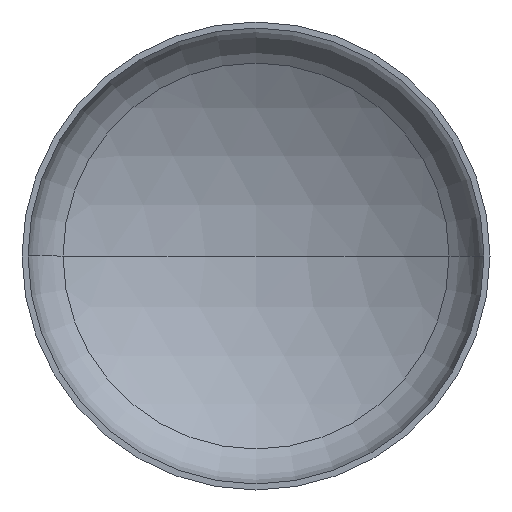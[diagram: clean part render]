
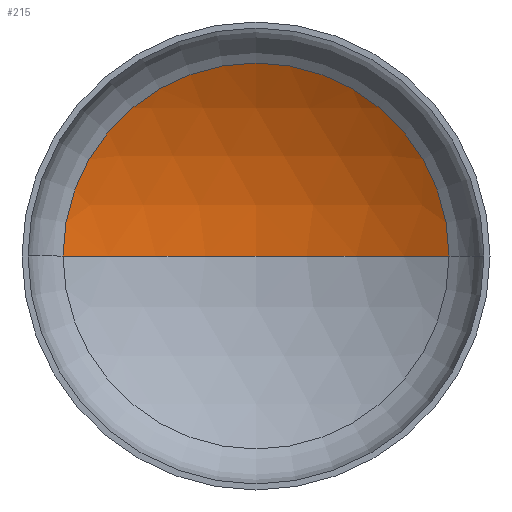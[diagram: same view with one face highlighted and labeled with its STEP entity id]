
A CAD part, front view. The second image highlights one B-rep face of the part: STEP entity #215.
In plain terms, the highlighted spherical face has radius 5600 mm.
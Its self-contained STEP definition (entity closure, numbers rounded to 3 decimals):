
#4 = ORIENTED_EDGE ( 'NONE', *, *, #144, .T. ) ;
#16 = VERTEX_POINT ( 'NONE', #342 ) ;
#30 = AXIS2_PLACEMENT_3D ( 'NONE', #234, #230, #33 ) ;
#33 = DIRECTION ( 'NONE',  ( -1., 0., 0. ) ) ;
#42 = VERTEX_POINT ( 'NONE', #275 ) ;
#48 = ORIENTED_EDGE ( 'NONE', *, *, #146, .F. ) ;
#83 = AXIS2_PLACEMENT_3D ( 'NONE', #186, #187, #194 ) ;
#87 = AXIS2_PLACEMENT_3D ( 'NONE', #208, #209, #204 ) ;
#90 = VERTEX_POINT ( 'NONE', #237 ) ;
#93 = AXIS2_PLACEMENT_3D ( 'NONE', #195, #298, #296 ) ;
#108 = EDGE_LOOP ( 'NONE', ( #48, #4, #344 ) ) ;
#142 = EDGE_CURVE ( 'NONE', #42, #90, #203, .T. ) ;
#144 = EDGE_CURVE ( 'NONE', #16, #42, #270, .T. ) ;
#146 = EDGE_CURVE ( 'NONE', #16, #90, #377, .T. ) ;
#186 = CARTESIAN_POINT ( 'NONE',  ( 0., -3773.177, 0. ) ) ;
#187 = DIRECTION ( 'NONE',  ( 0., 0., 1. ) ) ;
#194 = DIRECTION ( 'NONE',  ( 1., 0., 0. ) ) ;
#195 = CARTESIAN_POINT ( 'NONE',  ( 0., 1025.449, 0. ) ) ;
#203 = CIRCLE ( 'NONE', #93, 2886.726 ) ;
#204 = DIRECTION ( 'NONE',  ( -1., 0., 0. ) ) ;
#208 = CARTESIAN_POINT ( 'NONE',  ( 0., -3773.177, 0. ) ) ;
#209 = DIRECTION ( 'NONE',  ( 0., 0., -1. ) ) ;
#215 = ADVANCED_FACE ( 'NONE', ( #253 ), #356, .F. ) ;
#230 = DIRECTION ( 'NONE',  ( 0., 0., -1. ) ) ;
#234 = CARTESIAN_POINT ( 'NONE',  ( 0., -3773.177, 0. ) ) ;
#237 = CARTESIAN_POINT ( 'NONE',  ( -2886.726, 1025.449, 0. ) ) ;
#253 = FACE_OUTER_BOUND ( 'NONE', #108, .T. ) ;
#270 = CIRCLE ( 'NONE', #87, 5600. ) ;
#275 = CARTESIAN_POINT ( 'NONE',  ( 2886.726, 1025.449, 0. ) ) ;
#296 = DIRECTION ( 'NONE',  ( 1., 0., 0. ) ) ;
#298 = DIRECTION ( 'NONE',  ( 0., -1., 0. ) ) ;
#342 = CARTESIAN_POINT ( 'NONE',  ( 0., 1826.823, 0. ) ) ;
#344 = ORIENTED_EDGE ( 'NONE', *, *, #142, .T. ) ;
#356 = SPHERICAL_SURFACE ( 'NONE', #30, 5600. ) ;
#377 = CIRCLE ( 'NONE', #83, 5600. ) ;
